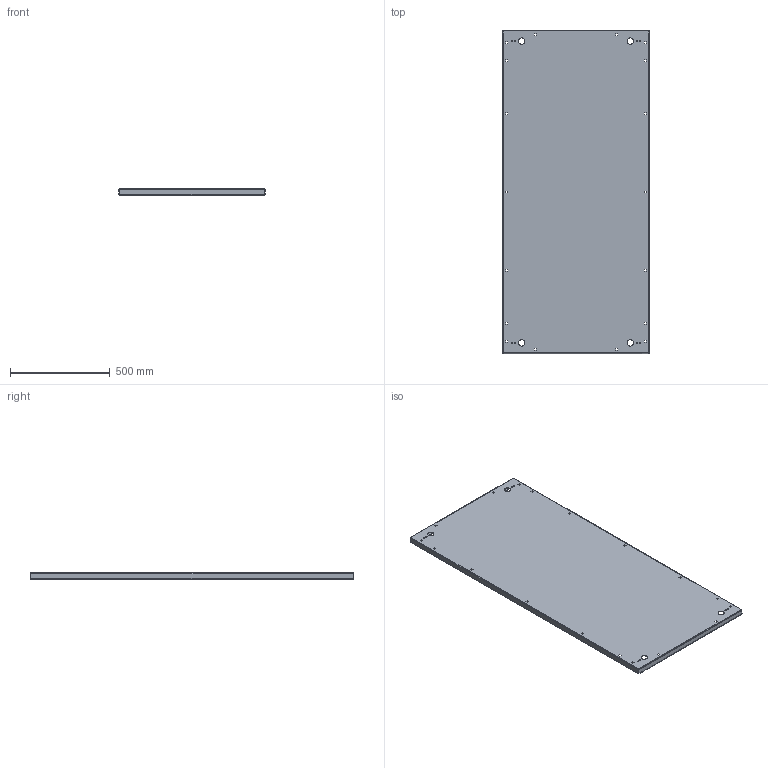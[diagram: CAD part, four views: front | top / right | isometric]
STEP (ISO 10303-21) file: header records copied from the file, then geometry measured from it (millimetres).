
FILE_DESCRIPTION (( 'STEP AP203' ), '1' );
FILE_NAME ('wfhdp7236.STEP', '2011-06-14T17:51:56', ( 'Hoffman User' ), ( 'Hoffman Enclosures' ), 'SwSTEP 2.0', 'SolidWorks 2010', '' );
FILE_SCHEMA (( 'CONFIG_CONTROL_DESIGN' ));
Length unit declared in the file: inch
Products named in the file (2): 89049830; wfhdp7236
Assembly tree (1 placements, depth 2):
  wfhdp7236
    89049830
Bounding box: 734.77 x 1619.73 x 30.28 mm (x, y, z)
Volume: 3450380.7 mm3; surface area: 2819006.4 mm2
Topology: 1 solids, 1 shells, 365 faces, 981 edges, 630 vertices
Faces by surface type: plane 300, cylinder 57, bspline 8
Entity records: 11925 total; most frequent: CARTESIAN_POINT 2416, ORIENTED_EDGE 1962, DIRECTION 1773, EDGE_CURVE 981, LINE 855, VECTOR 855, VERTEX_POINT 630, EDGE_LOOP 473
